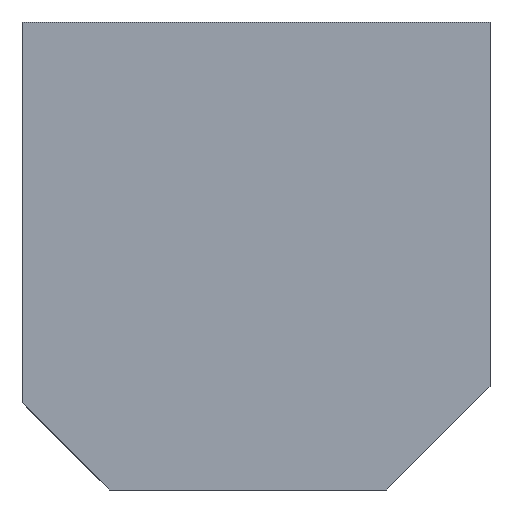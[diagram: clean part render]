
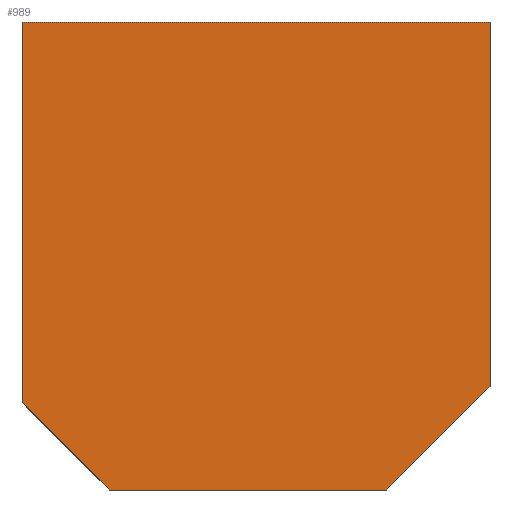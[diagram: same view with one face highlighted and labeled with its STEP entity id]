
A CAD part, front view. The second image highlights one B-rep face of the part: STEP entity #989.
In plain terms, the highlighted planar face has unit normal (0, -1, 0).
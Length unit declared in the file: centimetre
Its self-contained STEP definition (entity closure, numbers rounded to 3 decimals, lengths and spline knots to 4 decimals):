
#23 = VERTEX_POINT ( 'NONE', #1077 ) ;
#58 = VERTEX_POINT ( 'NONE', #1141 ) ;
#82 = DIRECTION ( 'NONE',  ( 0., 0., -1. ) ) ;
#86 = CARTESIAN_POINT ( 'NONE',  ( 1000., 0., 222.0803 ) ) ;
#94 = CARTESIAN_POINT ( 'NONE',  ( 186.0323, 0., 0. ) ) ;
#111 = CARTESIAN_POINT ( 'NONE',  ( 0., 0., 1000. ) ) ;
#122 = ORIENTED_EDGE ( 'NONE', *, *, #249, .F. ) ;
#155 = ORIENTED_EDGE ( 'NONE', *, *, #193, .T. ) ;
#169 = VECTOR ( 'NONE', #187, 100. ) ;
#187 = DIRECTION ( 'NONE',  ( 1., 0., 0. ) ) ;
#193 = EDGE_CURVE ( 'NONE', #1117, #227, #1108, .T. ) ;
#222 = VERTEX_POINT ( 'NONE', #86 ) ;
#227 = VERTEX_POINT ( 'NONE', #94 ) ;
#234 = EDGE_CURVE ( 'NONE', #58, #222, #1016, .T. ) ;
#243 = DIRECTION ( 'NONE',  ( 0.707, 0., 0.707 ) ) ;
#249 = EDGE_CURVE ( 'NONE', #486, #58, #1187, .T. ) ;
#276 = VECTOR ( 'NONE', #1198, 100. ) ;
#296 = VECTOR ( 'NONE', #243, 100. ) ;
#341 = FACE_OUTER_BOUND ( 'NONE', #480, .T. ) ;
#418 = CARTESIAN_POINT ( 'NONE',  ( 0., 0., 0. ) ) ;
#461 = CARTESIAN_POINT ( 'NONE',  ( 0., 0., 1000. ) ) ;
#464 = ORIENTED_EDGE ( 'NONE', *, *, #525, .T. ) ;
#480 = EDGE_LOOP ( 'NONE', ( #464, #155, #1167, #825, #501, #122 ) ) ;
#483 = DIRECTION ( 'NONE',  ( 0., 0., -1. ) ) ;
#486 = VERTEX_POINT ( 'NONE', #658 ) ;
#501 = ORIENTED_EDGE ( 'NONE', *, *, #234, .F. ) ;
#525 = EDGE_CURVE ( 'NONE', #486, #1117, #838, .T. ) ;
#526 = VECTOR ( 'NONE', #82, 100. ) ;
#537 = PLANE ( 'NONE',  #635 ) ;
#540 = DIRECTION ( 'NONE',  ( 0., 1., 0. ) ) ;
#550 = CARTESIAN_POINT ( 'NONE',  ( 1000., 0., 1000. ) ) ;
#627 = CARTESIAN_POINT ( 'NONE',  ( 0., 0., 1000. ) ) ;
#635 = AXIS2_PLACEMENT_3D ( 'NONE', #627, #540, #908 ) ;
#636 = CARTESIAN_POINT ( 'NONE',  ( 0., 0., 186.0323 ) ) ;
#658 = CARTESIAN_POINT ( 'NONE',  ( 0., 0., 1000. ) ) ;
#678 = EDGE_CURVE ( 'NONE', #23, #222, #771, .T. ) ;
#690 = EDGE_CURVE ( 'NONE', #227, #23, #697, .T. ) ;
#697 = LINE ( 'NONE', #418, #745 ) ;
#745 = VECTOR ( 'NONE', #1138, 100. ) ;
#771 = LINE ( 'NONE', #785, #296 ) ;
#785 = CARTESIAN_POINT ( 'NONE',  ( 1000., 0., 222.0803 ) ) ;
#825 = ORIENTED_EDGE ( 'NONE', *, *, #678, .T. ) ;
#832 = CARTESIAN_POINT ( 'NONE',  ( 0., 0., 186.0323 ) ) ;
#838 = LINE ( 'NONE', #111, #943 ) ;
#908 = DIRECTION ( 'NONE',  ( 0., 0., 1. ) ) ;
#943 = VECTOR ( 'NONE', #483, 100. ) ;
#989 = ADVANCED_FACE ( 'NONE', ( #341 ), #537, .F. ) ;
#1016 = LINE ( 'NONE', #550, #526 ) ;
#1077 = CARTESIAN_POINT ( 'NONE',  ( 777.9197, 0., 0. ) ) ;
#1108 = LINE ( 'NONE', #636, #276 ) ;
#1117 = VERTEX_POINT ( 'NONE', #832 ) ;
#1138 = DIRECTION ( 'NONE',  ( 1., 0., 0. ) ) ;
#1141 = CARTESIAN_POINT ( 'NONE',  ( 1000., 0., 1000. ) ) ;
#1167 = ORIENTED_EDGE ( 'NONE', *, *, #690, .T. ) ;
#1187 = LINE ( 'NONE', #461, #169 ) ;
#1198 = DIRECTION ( 'NONE',  ( 0.707, 0., -0.707 ) ) ;
